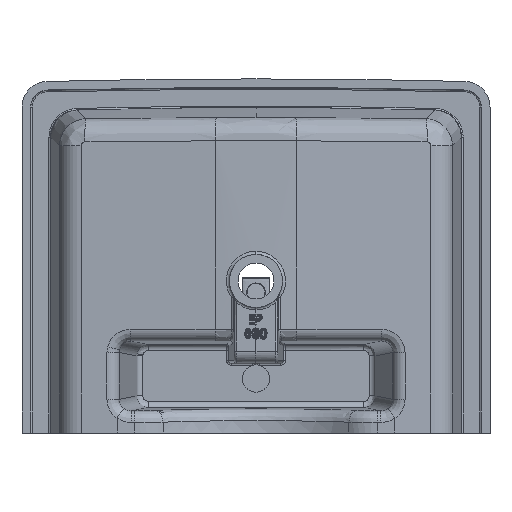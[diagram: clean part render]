
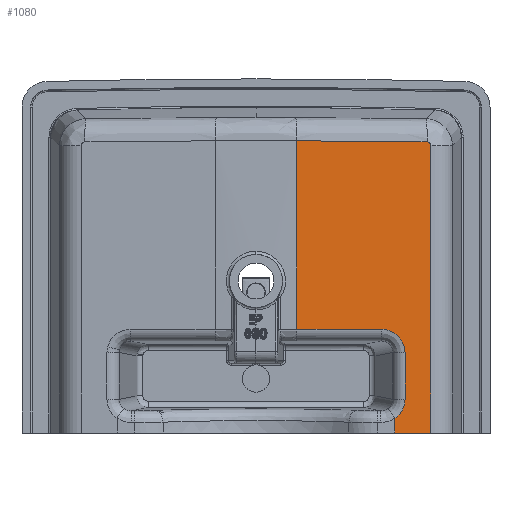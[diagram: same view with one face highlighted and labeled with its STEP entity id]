
A CAD part, front view. The second image highlights one B-rep face of the part: STEP entity #1080.
In plain terms, the highlighted planar face has unit normal (0.058, -0.998, 0).
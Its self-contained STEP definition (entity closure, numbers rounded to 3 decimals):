
#110 = DIRECTION ( 'NONE',  ( 0., 0., -1. ) ) ;
#345 = ORIENTED_EDGE ( 'NONE', *, *, #21058, .F. ) ;
#905 = EDGE_CURVE ( 'NONE', #10959, #15845, #27095, .T. ) ;
#978 = CARTESIAN_POINT ( 'NONE',  ( 223.458, -137.608, 145.946 ) ) ;
#1080 = ADVANCED_FACE ( 'NONE', ( #28382 ), #3416, .T. ) ;
#1330 = CARTESIAN_POINT ( 'NONE',  ( 223.788, -137.589, 145.223 ) ) ;
#1497 = CARTESIAN_POINT ( 'NONE',  ( 219.562, -137.833, 148.396 ) ) ;
#1503 = VERTEX_POINT ( 'NONE', #30610 ) ;
#1813 = CARTESIAN_POINT ( 'NONE',  ( 191.039, -139.476, -121.803 ) ) ;
#1821 = CARTESIAN_POINT ( 'NONE',  ( 178.113, -140.22, -206.145 ) ) ;
#2552 = ORIENTED_EDGE ( 'NONE', *, *, #26873, .T. ) ;
#2945 = DIRECTION ( 'NONE',  ( 0., 0., -1. ) ) ;
#3265 = VERTEX_POINT ( 'NONE', #33136 ) ;
#3416 = PLANE ( 'NONE',  #5463 ) ;
#3540 = CARTESIAN_POINT ( 'NONE',  ( 224.092, -137.572, 143.505 ) ) ;
#3715 = CARTESIAN_POINT ( 'NONE',  ( 223.107, -137.628, 146.476 ) ) ;
#3883 = CARTESIAN_POINT ( 'NONE',  ( 178.113, -140.22, -225. ) ) ;
#5001 = VERTEX_POINT ( 'NONE', #1813 ) ;
#5243 = VERTEX_POINT ( 'NONE', #13463 ) ;
#5463 = AXIS2_PLACEMENT_3D ( 'NONE', #9089, #30552, #110 ) ;
#5681 = CARTESIAN_POINT ( 'NONE',  ( 163.612, -141.056, 149.399 ) ) ;
#5882 = CARTESIAN_POINT ( 'NONE',  ( 191.039, -139.476, -7946.125 ) ) ;
#5937 = CARTESIAN_POINT ( 'NONE',  ( 224.092, -137.572, 143.505 ) ) ;
#6016 = EDGE_CURVE ( 'NONE', #5001, #5243, #27181, .T. ) ;
#6382 = DIRECTION ( 'NONE',  ( 0.998, 0.058, -0.002 ) ) ;
#6998 = CARTESIAN_POINT ( 'NONE',  ( 161.002, -141.206, -91.949 ) ) ;
#7008 = CARTESIAN_POINT ( 'NONE',  ( 222.21, -137.68, 147.38 ) ) ;
#7582 = ORIENTED_EDGE ( 'NONE', *, *, #21716, .T. ) ;
#7987 = CARTESIAN_POINT ( 'NONE',  ( 224.092, -137.572, -7946.125 ) ) ;
#8593 = VECTOR ( 'NONE', #27058, 1000. ) ;
#9089 = CARTESIAN_POINT ( 'NONE',  ( -9., -151., -7946.125 ) ) ;
#9169 = CARTESIAN_POINT ( 'NONE',  ( 107.976, -144.261, 149.824 ) ) ;
#9516 = VERTEX_POINT ( 'NONE', #21444 ) ;
#9693 = ORIENTED_EDGE ( 'NONE', *, *, #15728, .T. ) ;
#10154 = LINE ( 'NONE', #21230, #8593 ) ;
#10959 = VERTEX_POINT ( 'NONE', #12341 ) ;
#11177 = CARTESIAN_POINT ( 'NONE',  ( 161.002, -141.206, -91.949 ) ) ;
#11431 = VECTOR ( 'NONE', #34038, 1000. ) ;
#11752 = VERTEX_POINT ( 'NONE', #29487 ) ;
#11882 = CARTESIAN_POINT ( 'NONE',  ( 219.241, -137.851, 148.402 ) ) ;
#11924 = CARTESIAN_POINT ( 'NONE',  ( 222.902, -137.64, 146.728 ) ) ;
#12341 = CARTESIAN_POINT ( 'NONE',  ( 224.092, -137.572, -225. ) ) ;
#12622 = CARTESIAN_POINT ( 'NONE',  ( 178.626, -140.191, -91.988 ) ) ;
#13463 = CARTESIAN_POINT ( 'NONE',  ( 191.039, -139.476, -181.613 ) ) ;
#13785 = DIRECTION ( 'NONE',  ( 0., 0., 1. ) ) ;
#14649 = CARTESIAN_POINT ( 'NONE',  ( 221.396, -137.727, 147.889 ) ) ;
#14824 = CARTESIAN_POINT ( 'NONE',  ( 219.879, -137.814, 148.36 ) ) ;
#14991 = DIRECTION ( 'NONE',  ( 0., 0., -1. ) ) ;
#15007 = CARTESIAN_POINT ( 'NONE',  ( 222.454, -137.666, 147.178 ) ) ;
#15188 = CARTESIAN_POINT ( 'NONE',  ( 221.679, -137.711, 147.737 ) ) ;
#15728 = EDGE_CURVE ( 'NONE', #34157, #1503, #10154, .T. ) ;
#15845 = VERTEX_POINT ( 'NONE', #5937 ) ;
#15859 =( BOUNDED_CURVE ( )  B_SPLINE_CURVE ( 3, ( #11882, #5681, #9169, #22978 ),
 .UNSPECIFIED., .F., .F. ) 
 B_SPLINE_CURVE_WITH_KNOTS ( ( 4, 4 ),
 ( 1.553, 1.573 ),
 .UNSPECIFIED. ) 
 CURVE ( )  GEOMETRIC_REPRESENTATION_ITEM ( )  RATIONAL_B_SPLINE_CURVE ( ( 1., 1., 1., 1. ) ) 
 REPRESENTATION_ITEM ( '' )  );
#17392 = VECTOR ( 'NONE', #6382, 1000. ) ;
#17563 = CARTESIAN_POINT ( 'NONE',  ( 223.841, -137.586, 145.071 ) ) ;
#17919 = CARTESIAN_POINT ( 'NONE',  ( 224.092, -137.572, 143.826 ) ) ;
#18079 = CARTESIAN_POINT ( 'NONE',  ( 191.039, -139.476, -104.326 ) ) ;
#18253 = CARTESIAN_POINT ( 'NONE',  ( 223.971, -137.579, 144.61 ) ) ;
#18257 = VECTOR ( 'NONE', #13785, 1000. ) ;
#19174 = EDGE_CURVE ( 'NONE', #1503, #28765, #33908, .T. ) ;
#19604 = CARTESIAN_POINT ( 'NONE',  ( 8.641, -149.984, -225. ) ) ;
#19837 = CARTESIAN_POINT ( 'NONE',  ( 8.481, -149.993, -91.608 ) ) ;
#19874 = ORIENTED_EDGE ( 'NONE', *, *, #27840, .T. ) ;
#20641 = CARTESIAN_POINT ( 'NONE',  ( 224.062, -137.573, 144.143 ) ) ;
#20960 = CARTESIAN_POINT ( 'NONE',  ( 186.379, -139.744, -200.459 ) ) ;
#20980 = CARTESIAN_POINT ( 'NONE',  ( 191.039, -139.476, -121.803 ) ) ;
#20990 = CARTESIAN_POINT ( 'NONE',  ( 223.606, -137.6, 145.666 ) ) ;
#21058 = EDGE_CURVE ( 'NONE', #10959, #3265, #22151, .T. ) ;
#21132 = CARTESIAN_POINT ( 'NONE',  ( 191.039, -139.476, -191.615 ) ) ;
#21230 = CARTESIAN_POINT ( 'NONE',  ( 52.338, -147.466, -7946.125 ) ) ;
#21444 = CARTESIAN_POINT ( 'NONE',  ( 178.113, -140.22, -206.145 ) ) ;
#21595 =( BOUNDED_CURVE ( )  B_SPLINE_CURVE ( 3, ( #29527, #21132, #20960, #1821 ),
 .UNSPECIFIED., .F., .T. ) 
 B_SPLINE_CURVE_WITH_KNOTS ( ( 4, 4 ),
 ( 2.89, 3.851 ),
 .UNSPECIFIED. ) 
 CURVE ( )  GEOMETRIC_REPRESENTATION_ITEM ( )  RATIONAL_B_SPLINE_CURVE ( ( 1., 0.925, 0.925, 1. ) ) 
 REPRESENTATION_ITEM ( '' )  );
#21716 = EDGE_CURVE ( 'NONE', #5243, #9516, #21595, .T. ) ;
#21770 = EDGE_LOOP ( 'NONE', ( #9693, #29564, #19874, #23928, #7582, #35685, #345, #34715, #25509, #2552 ) ) ;
#22151 = LINE ( 'NONE', #19604, #11431 ) ;
#22338 =( BOUNDED_CURVE ( )  B_SPLINE_CURVE ( 3, ( #6998, #12622, #18079, #20980 ),
 .UNSPECIFIED., .F., .F. ) 
 B_SPLINE_CURVE_WITH_KNOTS ( ( 4, 4 ),
 ( 1.83, 3.393 ),
 .UNSPECIFIED. ) 
 CURVE ( )  GEOMETRIC_REPRESENTATION_ITEM ( )  RATIONAL_B_SPLINE_CURVE ( ( 1., 0.807, 0.807, 1. ) ) 
 REPRESENTATION_ITEM ( '' )  );
#22978 = CARTESIAN_POINT ( 'NONE',  ( 52.338, -147.466, 149.675 ) ) ;
#23558 = CARTESIAN_POINT ( 'NONE',  ( 220.812, -137.761, 148.134 ) ) ;
#23928 = ORIENTED_EDGE ( 'NONE', *, *, #6016, .T. ) ;
#24029 = VECTOR ( 'NONE', #2945, 1000. ) ;
#25509 = ORIENTED_EDGE ( 'NONE', *, *, #35489, .T. ) ;
#25576 = B_SPLINE_CURVE_WITH_KNOTS ( 'NONE', 3,
 ( #3540, #17919, #20641, #18253, #34888, #17563, #1330, #20990, #978, #3715, #11924, #15007, #7008, #15188, #14649, #23558, #25937, #14824, #1497, #34535 ),
 .UNSPECIFIED., .F., .F.,
 ( 4, 2, 2, 2, 2, 2, 2, 2, 2, 4 ),
 ( 0., 0.001, 0.001, 0.002, 0.003, 0.004, 0.005, 0.006, 0.007, 0.008 ),
 .UNSPECIFIED. ) ;
#25937 = CARTESIAN_POINT ( 'NONE',  ( 220.507, -137.778, 148.229 ) ) ;
#26873 = EDGE_CURVE ( 'NONE', #11752, #34157, #15859, .T. ) ;
#27058 = DIRECTION ( 'NONE',  ( 0., 0., -1. ) ) ;
#27095 = LINE ( 'NONE', #7987, #18257 ) ;
#27181 = LINE ( 'NONE', #5882, #24029 ) ;
#27840 = EDGE_CURVE ( 'NONE', #28765, #5001, #22338, .T. ) ;
#28382 = FACE_OUTER_BOUND ( 'NONE', #21770, .T. ) ;
#28765 = VERTEX_POINT ( 'NONE', #11177 ) ;
#28839 = LINE ( 'NONE', #3883, #36051 ) ;
#29487 = CARTESIAN_POINT ( 'NONE',  ( 219.241, -137.851, 148.402 ) ) ;
#29527 = CARTESIAN_POINT ( 'NONE',  ( 191.039, -139.476, -181.613 ) ) ;
#29564 = ORIENTED_EDGE ( 'NONE', *, *, #19174, .T. ) ;
#30552 = DIRECTION ( 'NONE',  ( 0.058, -0.998, 0. ) ) ;
#30610 = CARTESIAN_POINT ( 'NONE',  ( 52.338, -147.466, -91.706 ) ) ;
#32037 = EDGE_CURVE ( 'NONE', #9516, #3265, #28839, .T. ) ;
#32859 = CARTESIAN_POINT ( 'NONE',  ( 52.338, -147.466, 149.675 ) ) ;
#33136 = CARTESIAN_POINT ( 'NONE',  ( 178.113, -140.22, -225. ) ) ;
#33908 = LINE ( 'NONE', #19837, #17392 ) ;
#34038 = DIRECTION ( 'NONE',  ( -0.998, -0.058, 0. ) ) ;
#34157 = VERTEX_POINT ( 'NONE', #32859 ) ;
#34535 = CARTESIAN_POINT ( 'NONE',  ( 219.241, -137.851, 148.402 ) ) ;
#34715 = ORIENTED_EDGE ( 'NONE', *, *, #905, .T. ) ;
#34888 = CARTESIAN_POINT ( 'NONE',  ( 223.933, -137.581, 144.764 ) ) ;
#35489 = EDGE_CURVE ( 'NONE', #15845, #11752, #25576, .T. ) ;
#35685 = ORIENTED_EDGE ( 'NONE', *, *, #32037, .T. ) ;
#36051 = VECTOR ( 'NONE', #14991, 1000. ) ;
